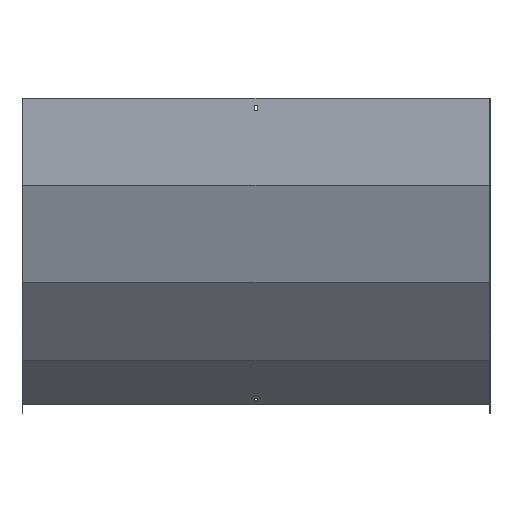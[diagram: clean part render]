
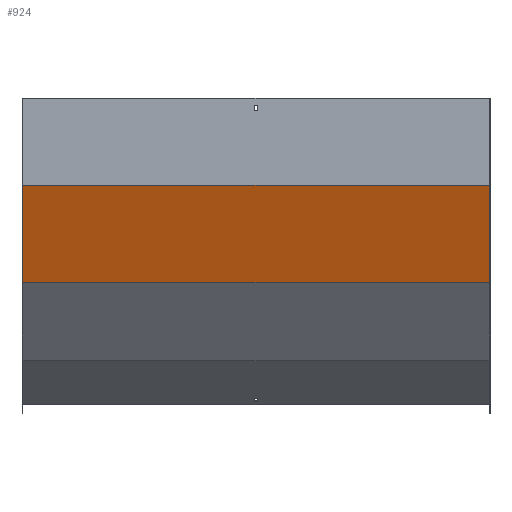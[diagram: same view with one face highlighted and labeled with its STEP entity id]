
A CAD part, front view. The second image highlights one B-rep face of the part: STEP entity #924.
In plain terms, the highlighted planar face has unit normal (0, -0.94, -0.342).
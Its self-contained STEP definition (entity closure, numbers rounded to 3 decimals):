
#3 = DIRECTION ( 'NONE',  ( -1., 0., 0. ) ) ;
#5 = EDGE_CURVE ( 'NONE', #721, #176, #550, .T. ) ;
#87 = CARTESIAN_POINT ( 'NONE',  ( -400., 58.842, -315.854 ) ) ;
#157 = VECTOR ( 'NONE', #436, 1000. ) ;
#176 = VERTEX_POINT ( 'NONE', #627 ) ;
#186 = DIRECTION ( 'NONE',  ( -1., 0., 0. ) ) ;
#201 = CARTESIAN_POINT ( 'NONE',  ( 401.5, -1.41, -150.313 ) ) ;
#222 = VECTOR ( 'NONE', #3, 1000. ) ;
#249 = VECTOR ( 'NONE', #186, 1000. ) ;
#292 = EDGE_CURVE ( 'NONE', #176, #489, #362, .T. ) ;
#313 = AXIS2_PLACEMENT_3D ( 'NONE', #201, #513, #826 ) ;
#316 = CARTESIAN_POINT ( 'NONE',  ( 401.5, 58.842, -315.854 ) ) ;
#341 = VECTOR ( 'NONE', #354, 1000. ) ;
#354 = DIRECTION ( 'NONE',  ( 0., 0.342, -0.94 ) ) ;
#357 = EDGE_CURVE ( 'NONE', #721, #961, #441, .T. ) ;
#362 = LINE ( 'NONE', #824, #341 ) ;
#369 = ORIENTED_EDGE ( 'NONE', *, *, #5, .T. ) ;
#432 = FACE_OUTER_BOUND ( 'NONE', #794, .T. ) ;
#436 = DIRECTION ( 'NONE',  ( 0., 0.342, -0.94 ) ) ;
#441 = LINE ( 'NONE', #897, #157 ) ;
#488 = ORIENTED_EDGE ( 'NONE', *, *, #357, .F. ) ;
#489 = VERTEX_POINT ( 'NONE', #87 ) ;
#513 = DIRECTION ( 'NONE',  ( 0., 0.94, 0.342 ) ) ;
#550 = LINE ( 'NONE', #884, #249 ) ;
#614 = LINE ( 'NONE', #316, #222 ) ;
#627 = CARTESIAN_POINT ( 'NONE',  ( -400., -1.5, -150.064 ) ) ;
#637 = CARTESIAN_POINT ( 'NONE',  ( 400., -1.5, -150.064 ) ) ;
#648 = EDGE_CURVE ( 'NONE', #961, #489, #614, .T. ) ;
#711 = ORIENTED_EDGE ( 'NONE', *, *, #648, .F. ) ;
#721 = VERTEX_POINT ( 'NONE', #637 ) ;
#744 = PLANE ( 'NONE',  #313 ) ;
#794 = EDGE_LOOP ( 'NONE', ( #866, #711, #488, #369 ) ) ;
#822 = CARTESIAN_POINT ( 'NONE',  ( 400., 58.842, -315.854 ) ) ;
#824 = CARTESIAN_POINT ( 'NONE',  ( -400., -49.554, -18.036 ) ) ;
#826 = DIRECTION ( 'NONE',  ( 0., -0.342, 0.94 ) ) ;
#866 = ORIENTED_EDGE ( 'NONE', *, *, #292, .T. ) ;
#884 = CARTESIAN_POINT ( 'NONE',  ( 401.5, -1.5, -150.064 ) ) ;
#897 = CARTESIAN_POINT ( 'NONE',  ( 400., -49.554, -18.036 ) ) ;
#924 = ADVANCED_FACE ( 'NONE', ( #432 ), #744, .F. ) ;
#961 = VERTEX_POINT ( 'NONE', #822 ) ;
